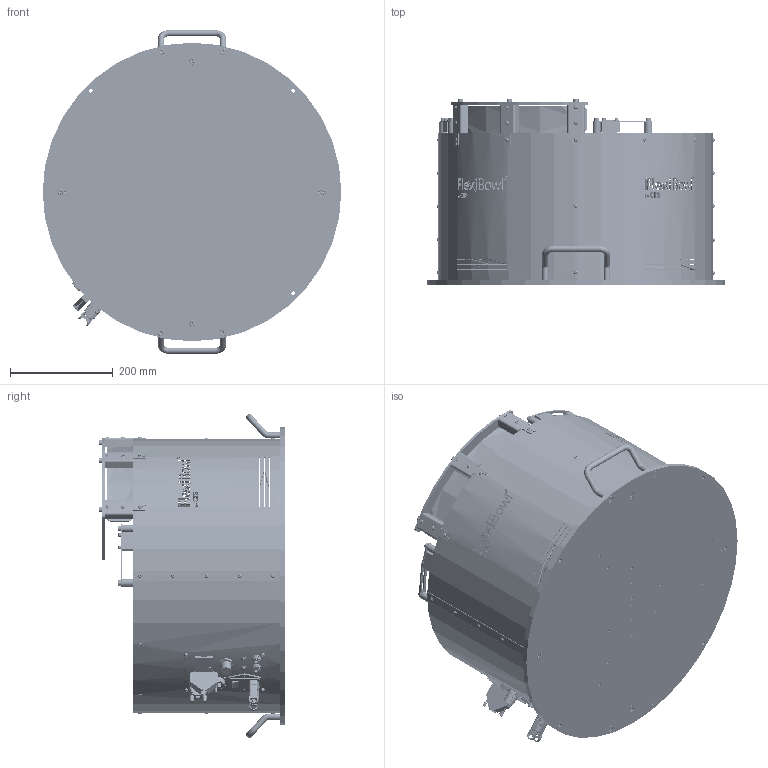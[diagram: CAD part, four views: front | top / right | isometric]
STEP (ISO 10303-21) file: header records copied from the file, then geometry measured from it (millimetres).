
FILE_DESCRIPTION (( 'STEP AP214' ), '1' );
FILE_NAME ('FB500CC.STEP', '2021-09-09T12:41:51', ( '' ), ( '' ), 'SwSTEP 2.0', 'SolidWorks 2020', '' );
FILE_SCHEMA (( 'AUTOMOTIVE_DESIGN' ));
Length unit declared in the file: millimetre
Products named in the file (78): CE000418; CM000091; PD000709; Copia di CE000327^CE000327; CE000276; CM000008_001; PD001059; CE000302; Copia di 39-01-2025^CE000302; CM000050; Copia di Led RDY_FLT^CE000326; CE000420; Copia di connector_a-ds_25_pp-f^CE000302; CM000032; CM000008; PD002030; Copia di connector_amet-15rs^CE000302; CM000478; PD001111; PD001425; PD001739; PD001071; CM000015_002; PD001736; PD000031; CM000686_001; CM000642; Copia di Connettore te 2 poli - Copia^CE000302; CM000001; CM000051; CM000686_002; CE000013; CE000326; CM000015_001; CM000021; PD001119; PD001440; CM000015; CM000031; CM000008_002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
Assembly tree (199 placements, depth 3):
  FB500CC
    CM000032  x4
    CM000031  x7
    CM000048  x24
    CM000170  x4
    CM000050  x3
    CM000478  x6
    CM000166  x12
    CM000642  x4
    CM000027  x4
    CM000091  x2
    CM000021  x15
    CM000026  x11
    CM000025  x5
    CM000024  x10
    CM000043  x2
    CM000006  x4
    CM000051  x4
    PD001071
    CM000001  x2
    PD001440  x4
    PD001740
    PD001739
    PD001736  x2
    PD001650
    PD001356
    PD000709
    PD002026
    PD000031
    PD001106
    PD001109  x3
    PD001111  x3
    PD001112
    PD001059
    PD000043  x4
    PD001118  x2
    PD001119  x2
    PD001424
    PD001425
    PD001360_FB500
    CE000007
    CM000015  x2
      CM000015_001
      CM000015_002
    CE000013  x2
    CE000005
    CM000008
      CM000008_001
      CM000008_003  x2
      CM000008_002
      CM000008_004
      CM000008_005
    CE000302
      Copia di connector_a-ds_25_pp-f^CE000302
      Copia di 15 poli femmina^CE000302
      Copia di connector_amet-15rs^CE000302
      Copia di Connettore te 2 poli - Copia^CE000302
      Copia di 39-01-2025^CE000302
    CE000030  x2
    CE000316
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Bounding box: 580 x 362 x 628.99 mm (x, y, z)
Volume: 6952448 mm3; surface area: 3139800.9 mm2
Topology: 209 solids, 228 shells, 16466 faces, 43257 edges, 27593 vertices
Faces by surface type: plane 8825, cylinder 3785, cone 1623, bspline 1491, torus 666, sphere 76
Entity records: 599232 total; most frequent: CARTESIAN_POINT 213044, ORIENTED_EDGE 72766, DIRECTION 60186, EDGE_CURVE 36585, VERTEX_POINT 23910, AXIS2_PLACEMENT_3D 20130, VECTOR 19926, LINE 19926
